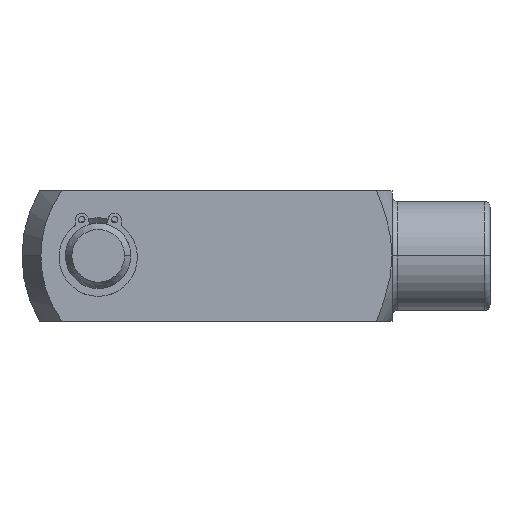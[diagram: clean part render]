
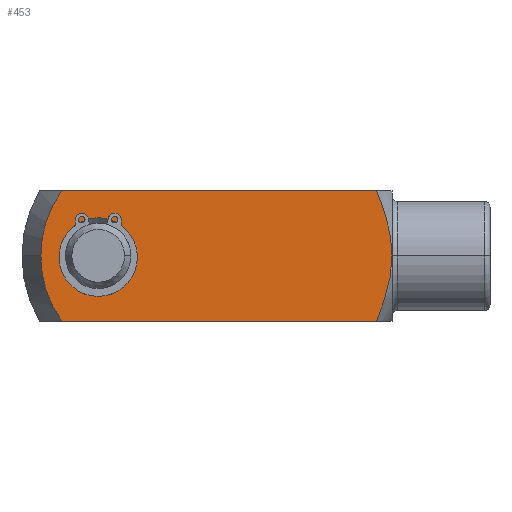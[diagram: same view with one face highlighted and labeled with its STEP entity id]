
A CAD part, top view. The second image highlights one B-rep face of the part: STEP entity #453.
In plain terms, the highlighted planar face has unit normal (0, 0, 1).
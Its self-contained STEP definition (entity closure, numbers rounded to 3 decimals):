
#290 = VERTEX_POINT ( 'NONE', #979 ) ;
#291 = VERTEX_POINT ( 'NONE', #978 ) ;
#318 = EDGE_CURVE ( 'NONE', #319, #290, #982, .T. ) ;
#319 = VERTEX_POINT ( 'NONE', #1039 ) ;
#369 = VERTEX_POINT ( 'NONE', #1122 ) ;
#371 = EDGE_CURVE ( 'NONE', #291, #369, #1121, .T. ) ;
#372 = ORIENTED_EDGE ( 'NONE', *, *, #373, .T. ) ;
#373 = EDGE_CURVE ( 'NONE', #369, #291, #1116, .T. ) ;
#374 = EDGE_LOOP ( 'NONE', ( #375, #436, #438, #439, #442, #445 ) ) ;
#375 = ORIENTED_EDGE ( 'NONE', *, *, #433, .F. ) ;
#433 = EDGE_CURVE ( 'NONE', #434, #435, #1240, .T. ) ;
#434 = VERTEX_POINT ( 'NONE', #1236 ) ;
#435 = VERTEX_POINT ( 'NONE', #1235 ) ;
#436 = ORIENTED_EDGE ( 'NONE', *, *, #437, .T. ) ;
#437 = EDGE_CURVE ( 'NONE', #434, #319, #1234, .T. ) ;
#438 = ORIENTED_EDGE ( 'NONE', *, *, #318, .T. ) ;
#439 = ORIENTED_EDGE ( 'NONE', *, *, #440, .T. ) ;
#440 = EDGE_CURVE ( 'NONE', #290, #441, #1229, .T. ) ;
#441 = VERTEX_POINT ( 'NONE', #1283 ) ;
#442 = ORIENTED_EDGE ( 'NONE', *, *, #443, .F. ) ;
#443 = EDGE_CURVE ( 'NONE', #444, #441, #1282, .T. ) ;
#444 = VERTEX_POINT ( 'NONE', #1281 ) ;
#445 = ORIENTED_EDGE ( 'NONE', *, *, #446, .F. ) ;
#446 = EDGE_CURVE ( 'NONE', #435, #444, #1274, .T. ) ;
#453 = ADVANCED_FACE ( 'NONE', ( #1313, #1312 ), #1311, .T. ) ;
#454 = EDGE_LOOP ( 'NONE', ( #455, #372 ) ) ;
#455 = ORIENTED_EDGE ( 'NONE', *, *, #371, .T. ) ;
#978 = CARTESIAN_POINT ( 'NONE',  ( -32.5, 0., 6. ) ) ;
#979 = CARTESIAN_POINT ( 'NONE',  ( -39.333, -6., 6. ) ) ;
#980 = CARTESIAN_POINT ( 'NONE',  ( -31., 0., 6. ) ) ;
#981 = AXIS2_PLACEMENT_3D ( 'NONE', #980, #1041, #1040 ) ;
#982 = CIRCLE ( 'NONE', #981, 10.268 ) ;
#1039 = CARTESIAN_POINT ( 'NONE',  ( -41.268, 0., 6. ) ) ;
#1040 = DIRECTION ( 'NONE',  ( 1., 0., 0. ) ) ;
#1041 = DIRECTION ( 'NONE',  ( 0., 0., 1. ) ) ;
#1112 = DIRECTION ( 'NONE',  ( 1., 0., 0. ) ) ;
#1113 = DIRECTION ( 'NONE',  ( 0., 0., -1. ) ) ;
#1114 = CARTESIAN_POINT ( 'NONE',  ( -36., 0., 6. ) ) ;
#1115 = AXIS2_PLACEMENT_3D ( 'NONE', #1114, #1113, #1112 ) ;
#1116 = CIRCLE ( 'NONE', #1115, 3.5 ) ;
#1117 = DIRECTION ( 'NONE',  ( 1., 0., 0. ) ) ;
#1118 = DIRECTION ( 'NONE',  ( 0., 0., -1. ) ) ;
#1119 = CARTESIAN_POINT ( 'NONE',  ( -36., 0., 6. ) ) ;
#1120 = AXIS2_PLACEMENT_3D ( 'NONE', #1119, #1118, #1117 ) ;
#1121 = CIRCLE ( 'NONE', #1120, 3.5 ) ;
#1122 = CARTESIAN_POINT ( 'NONE',  ( -39.5, 0., 6. ) ) ;
#1226 = DIRECTION ( 'NONE',  ( 1., 0., 0. ) ) ;
#1227 = VECTOR ( 'NONE', #1226, 1000. ) ;
#1228 = CARTESIAN_POINT ( 'NONE',  ( -43., -6., 6. ) ) ;
#1229 = LINE ( 'NONE', #1228, #1227 ) ;
#1230 = DIRECTION ( 'NONE',  ( 1., 0., 0. ) ) ;
#1231 = DIRECTION ( 'NONE',  ( 0., 0., 1. ) ) ;
#1232 = CARTESIAN_POINT ( 'NONE',  ( -31., 0., 6. ) ) ;
#1233 = AXIS2_PLACEMENT_3D ( 'NONE', #1232, #1231, #1230 ) ;
#1234 = CIRCLE ( 'NONE', #1233, 10.268 ) ;
#1235 = CARTESIAN_POINT ( 'NONE',  ( -10.435, 6., 6. ) ) ;
#1236 = CARTESIAN_POINT ( 'NONE',  ( -39.333, 6., 6. ) ) ;
#1237 = DIRECTION ( 'NONE',  ( 1., 0., 0. ) ) ;
#1238 = VECTOR ( 'NONE', #1237, 1000. ) ;
#1239 = CARTESIAN_POINT ( 'NONE',  ( -43., 6., 6. ) ) ;
#1240 = LINE ( 'NONE', #1239, #1238 ) ;
#1260 = CARTESIAN_POINT ( 'NONE',  ( -9., 0., 6. ) ) ;
#1261 = CARTESIAN_POINT ( 'NONE',  ( -9., 0.261, 6. ) ) ;
#1262 = CARTESIAN_POINT ( 'NONE',  ( -9.01, 0.523, 6. ) ) ;
#1263 = CARTESIAN_POINT ( 'NONE',  ( -9.049, 1.041, 6. ) ) ;
#1264 = CARTESIAN_POINT ( 'NONE',  ( -9.077, 1.298, 6. ) ) ;
#1265 = CARTESIAN_POINT ( 'NONE',  ( -9.188, 2.064, 6. ) ) ;
#1266 = CARTESIAN_POINT ( 'NONE',  ( -9.295, 2.567, 6. ) ) ;
#1267 = CARTESIAN_POINT ( 'NONE',  ( -9.688, 4.062, 6. ) ) ;
#1268 = CARTESIAN_POINT ( 'NONE',  ( -10.044, 5.042, 6. ) ) ;
#1269 = CARTESIAN_POINT ( 'NONE',  ( -10.435, 6., 6. ) ) ;
#1274 = B_SPLINE_CURVE_WITH_KNOTS ( 'NONE', 3,
 ( #1269, #1268, #1267, #1266, #1265, #1264, #1263, #1262, #1261, #1260 ),
 .UNSPECIFIED., .F., .F.,
 ( 4, 2, 2, 2, 4 ),
 ( 0.018, 0.021, 0.023, 0.023, 0.024 ),
 .UNSPECIFIED. ) ;
#1275 = CARTESIAN_POINT ( 'NONE',  ( -10.435, -6., 6. ) ) ;
#1276 = CARTESIAN_POINT ( 'NONE',  ( -10.043, -5.039, 6. ) ) ;
#1277 = CARTESIAN_POINT ( 'NONE',  ( -9.686, -4.057, 6. ) ) ;
#1278 = CARTESIAN_POINT ( 'NONE',  ( -9.163, -2.063, 6. ) ) ;
#1279 = CARTESIAN_POINT ( 'NONE',  ( -9., -1.047, 6. ) ) ;
#1280 = CARTESIAN_POINT ( 'NONE',  ( -9., 0., 6. ) ) ;
#1281 = CARTESIAN_POINT ( 'NONE',  ( -9., 0., 6. ) ) ;
#1282 = B_SPLINE_CURVE_WITH_KNOTS ( 'NONE', 3,
 ( #1280, #1279, #1278, #1277, #1276, #1275 ),
 .UNSPECIFIED., .F., .F.,
 ( 4, 2, 4 ),
 ( 0.024, 0.027, 0.03 ),
 .UNSPECIFIED. ) ;
#1283 = CARTESIAN_POINT ( 'NONE',  ( -10.435, -6., 6. ) ) ;
#1306 = DIRECTION ( 'NONE',  ( 1., 0., 0. ) ) ;
#1307 = DIRECTION ( 'NONE',  ( 0., 0., 1. ) ) ;
#1308 = CARTESIAN_POINT ( 'NONE',  ( -43., -6., 6. ) ) ;
#1310 = AXIS2_PLACEMENT_3D ( 'NONE', #1308, #1307, #1306 ) ;
#1311 = PLANE ( 'NONE',  #1310 ) ;
#1312 = FACE_OUTER_BOUND ( 'NONE', #374, .T. ) ;
#1313 = FACE_BOUND ( 'NONE', #454, .T. ) ;
